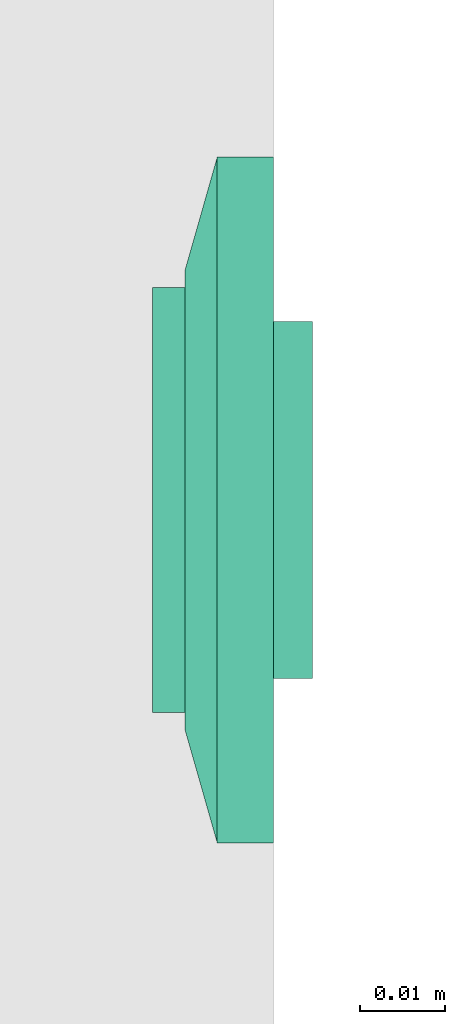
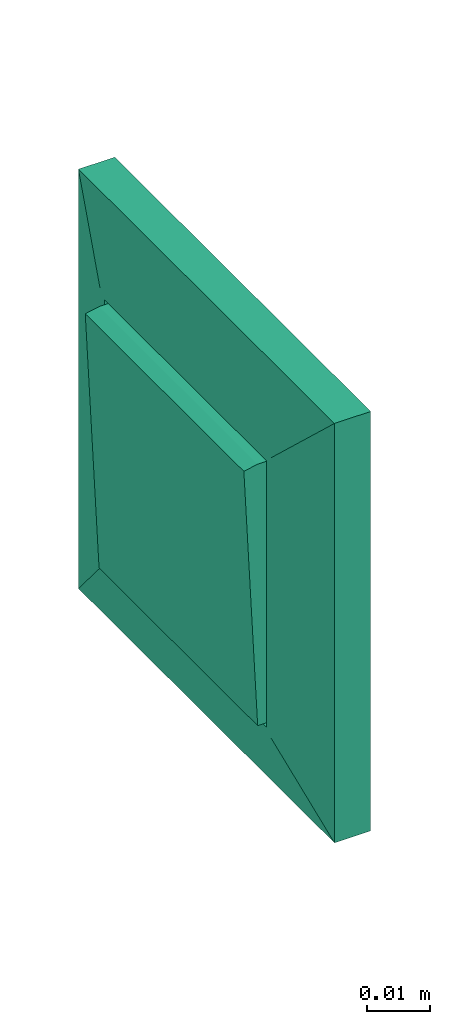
# One storey, part 108 of 153: 1 flow terminal.
"""IFC2X3 building model written with IfcOpenShell, lengths in metres."""

from ifc_helpers import new_model, entity, si_unit, converted_unit, derived_unit, direction, frame, origin, place, context, subcontext, project, spatial, faceted_brep, source, transform, mapped, type_object, type_shapes, element, save


model = new_model("IFC2X3")

# Units and contexts
model_context = context("Model", 3, precision=1e-05, world=origin(), true_north=direction((6.12303176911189e-17, 1.0)))
body_context = subcontext(model_context, "Body", "Model", "MODEL_VIEW")
ifc_project = project(units=[si_unit("LENGTHUNIT", "METRE"), si_unit("AREAUNIT", "SQUARE_METRE"), si_unit("VOLUMEUNIT", "CUBIC_METRE"), converted_unit("PLANEANGLEUNIT", "DEGREE", entity("IfcRatioMeasure", 0.0174532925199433), si_unit("PLANEANGLEUNIT", "RADIAN"), dimensions=[0, 0, 0, 0, 0, 0, 0]), si_unit("MASSUNIT", "GRAM", prefix="KILO"), derived_unit("MASSDENSITYUNIT", [(si_unit("MASSUNIT", "GRAM", prefix="KILO"), 1), (si_unit("LENGTHUNIT", "METRE"), -3)]), si_unit("TIMEUNIT", "SECOND"), si_unit("FREQUENCYUNIT", "HERTZ"), si_unit("THERMODYNAMICTEMPERATUREUNIT", "DEGREE_CELSIUS"), derived_unit("THERMALTRANSMITTANCEUNIT", [(si_unit("MASSUNIT", "GRAM", prefix="KILO"), 1), (si_unit("THERMODYNAMICTEMPERATUREUNIT", "KELVIN"), -1), (si_unit("TIMEUNIT", "SECOND"), -3)]), derived_unit("VOLUMETRICFLOWRATEUNIT", [(si_unit("LENGTHUNIT", "METRE"), 3), (si_unit("TIMEUNIT", "SECOND"), -1)]), si_unit("ELECTRICCURRENTUNIT", "AMPERE"), si_unit("ELECTRICVOLTAGEUNIT", "VOLT"), si_unit("POWERUNIT", "WATT"), si_unit("FORCEUNIT", "NEWTON"), si_unit("ILLUMINANCEUNIT", "LUX"), si_unit("LUMINOUSFLUXUNIT", "LUMEN"), si_unit("LUMINOUSINTENSITYUNIT", "CANDELA"), derived_unit("USERDEFINED", [(si_unit("MASSUNIT", "GRAM", prefix="KILO"), -1), (si_unit("LENGTHUNIT", "METRE"), -2), (si_unit("TIMEUNIT", "SECOND"), 3), (si_unit("LUMINOUSFLUXUNIT", "LUMEN"), 1)]), derived_unit("LINEARVELOCITYUNIT", [(si_unit("LENGTHUNIT", "METRE"), 1), (si_unit("TIMEUNIT", "SECOND"), -1)]), si_unit("PRESSUREUNIT", "PASCAL"), derived_unit("USERDEFINED", [(si_unit("LENGTHUNIT", "METRE"), -2), (si_unit("MASSUNIT", "GRAM", prefix="KILO"), 1), (si_unit("TIMEUNIT", "SECOND"), -2)])], contexts=[model_context])

# Site, building, storey
site_placement = place(None, origin())
site = spatial("IfcSite", under=ifc_project, at=site_placement, Name="Default", CompositionType="ELEMENT")
building_placement = place(site_placement, origin())
building = spatial("IfcBuilding", under=site, at=building_placement, CompositionType="ELEMENT")
storey_placement = place(building_placement, frame((0.0, 0.0, -4.62)))
storey = spatial("IfcBuildingStorey", under=building, at=storey_placement, Name="S02", CompositionType="ELEMENT", Elevation=-4.62)

# Flow terminal
light_fixture_type = type_object("IfcLightFixtureType", Name="BP IP21", PredefinedType="NOTDEFINED")
shared_shape = source(origin(), body_context, "Body", "Brep", [
    faceted_brep([(0.0, 0.0209999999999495, -0.00460000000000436), (0.00543519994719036, 0.02028444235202, -0.00460000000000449), (0.0105000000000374, 0.0181865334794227, -0.00460000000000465), (0.0148492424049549, 0.014849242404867, -0.00460000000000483), (0.0181865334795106, 0.0104999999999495, -0.00460000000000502), (0.0202844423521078, 0.00543519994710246, -0.00460000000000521), (0.0210000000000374, 0.0, -0.00460000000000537), (0.0202844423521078, -0.00543519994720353, -0.00460000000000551), (0.0181865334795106, -0.0105000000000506, -0.0046000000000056), (0.0148492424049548, -0.0148492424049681, -0.00460000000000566), (0.0105000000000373, -0.0181865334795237, -0.00460000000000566), (0.00543519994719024, -0.0202844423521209, -0.00460000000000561), (0.0, -0.0210000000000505, -0.00460000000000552), (-0.00543519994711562, -0.0202844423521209, -0.00460000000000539), (-0.0104999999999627, -0.0181865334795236, -0.00460000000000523), (-0.0148492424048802, -0.0148492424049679, -0.00460000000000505), (-0.0181865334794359, -0.0105000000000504, -0.00460000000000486), (-0.0202844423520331, -0.00543519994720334, -0.00460000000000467), (-0.0209999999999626, 0.0, -0.00460000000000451), (-0.020284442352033, 0.00543519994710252, -0.00460000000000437), (-0.0181865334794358, 0.0104999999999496, -0.00460000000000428), (-0.0148492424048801, 0.0148492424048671, -0.00460000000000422), (-0.0104999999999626, 0.0181865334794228, -0.00460000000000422), (-0.00543519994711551, 0.02028444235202, -0.00460000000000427), (-0.020284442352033, -0.00543519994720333, 0.0), (-0.0209999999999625, 0.0, 0.0), (-0.0181865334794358, -0.0105000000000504, 0.0), (-0.0104999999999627, -0.0181865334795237, 0.0), (-0.0148492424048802, -0.0148492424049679, 0.0), (-0.00543519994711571, -0.020284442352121, 0.0), (0.0, -0.0210000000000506, 0.0), (0.00543519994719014, -0.0202844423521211, 0.0), (0.0105000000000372, -0.018186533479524, 0.0), (0.0181865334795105, -0.0105000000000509, 0.0), (0.0148492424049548, -0.0148492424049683, 0.0), (0.0202844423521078, -0.00543519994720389, 0.0), (0.0210000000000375, 0.0, 0.0), (0.0202844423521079, 0.00543519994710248, 0.0), (0.0181865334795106, 0.0104999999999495, 0.0), (0.0105000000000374, 0.0181865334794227, 0.0), (0.0148492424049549, 0.014849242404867, 0.0), (0.00543519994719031, 0.0202844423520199, 0.0), (0.0, 0.0209999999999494, 0.0), (-0.00543519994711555, 0.0202844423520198, 0.0), (-0.0104999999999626, 0.0181865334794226, 0.0), (-0.0181865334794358, 0.0104999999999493, 0.0), (-0.0148492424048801, 0.0148492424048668, 0.0), (-0.020284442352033, 0.00543519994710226, 0.0)], [[[0, 1, 2, 3, 4, 5, 6, 7, 8, 9, 10, 11, 12, 13, 14, 15, 16, 17, 18, 19, 20, 21, 22, 23]], [[17, 24, 25, 18]], [[16, 26, 24, 17]], [[27, 28, 15, 14]], [[16, 15, 28, 26]], [[29, 27, 14, 13]], [[30, 29, 13, 12]], [[11, 31, 30, 12]], [[10, 32, 31, 11]], [[33, 34, 9, 8]], [[10, 9, 34, 32]], [[35, 33, 8, 7]], [[36, 35, 7, 6]], [[5, 37, 36, 6]], [[4, 38, 37, 5]], [[39, 40, 3, 2]], [[4, 3, 40, 38]], [[41, 39, 2, 1]], [[42, 41, 1, 0]], [[23, 43, 42, 0]], [[22, 44, 43, 23]], [[45, 46, 21, 20]], [[22, 21, 46, 44]], [[47, 45, 20, 19]], [[25, 47, 19, 18]], [[25, 24, 26, 28, 27, 29, 30, 31, 32, 34, 33, 35, 36, 37, 38, 40, 39, 41, 42, 43, 44, 46, 45, 47]]]),
    faceted_brep([(0.0270000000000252, 0.026999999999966, 0.0103999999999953), (-0.0269999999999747, 0.026999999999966, 0.0103999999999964), (-0.0269999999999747, -0.0270000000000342, 0.0103999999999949), (0.0270000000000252, -0.0270000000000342, 0.0103999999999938), (-0.0254999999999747, 0.0258096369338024, 0.0103999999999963), (0.0255000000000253, 0.0258096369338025, 0.0103999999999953), (0.0255000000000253, -0.0255000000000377, 0.0103999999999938), (-0.0254999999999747, -0.0255000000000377, 0.0103999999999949), (0.0270000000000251, 0.0269999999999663, 0.00199999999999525), (0.0270000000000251, -0.0270000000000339, 0.00199999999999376), (-0.0269999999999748, -0.0270000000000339, 0.00199999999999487), (-0.0269999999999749, 0.0269999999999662, 0.00199999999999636), (0.0255000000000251, 0.0258096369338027, 0.00199999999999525), (-0.0254999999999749, 0.0258096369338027, 0.0019999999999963), (-0.0254999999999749, -0.0255000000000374, 0.00199999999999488), (0.0255000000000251, -0.0255000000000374, 0.00199999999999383)], [[[0, 1, 2, 3], [4, 5, 6, 7]], [[8, 9, 10, 11], [12, 13, 14, 15]], [[1, 0, 8, 11]], [[2, 1, 11, 10]], [[3, 2, 10, 9]], [[0, 3, 9, 8]], [[12, 5, 4, 13]], [[13, 4, 7, 14]], [[14, 7, 6, 15]], [[5, 12, 15, 6]]]),
    faceted_brep([(0.0250000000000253, 0.0253096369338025, 0.00659999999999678), (0.0250000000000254, 0.0253096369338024, 0.0117095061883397), (0.0250000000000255, -0.0245000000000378, 0.0142232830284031), (0.0250000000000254, -0.0250000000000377, 0.0117095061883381), (0.0250000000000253, -0.0250000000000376, 0.00659999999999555), (-0.0249999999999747, 0.0253096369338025, 0.00659999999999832), (-0.0249999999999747, -0.0250000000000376, 0.00659999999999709), (-0.0249999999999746, -0.0250000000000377, 0.0117095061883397), (-0.0249999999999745, -0.0245000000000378, 0.0142232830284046), (-0.0249999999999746, 0.0253096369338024, 0.0117095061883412)], [[[0, 1, 2, 3, 4]], [[5, 6, 7, 8, 9]], [[1, 0, 5, 9]], [[2, 1, 9, 8]], [[3, 2, 8, 7]], [[4, 3, 7, 6]], [[0, 4, 6, 5]]]),
    faceted_brep([(0.027000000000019, 0.0269999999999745, 0.00659999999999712), (-0.0269999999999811, 0.0269999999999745, 0.00659999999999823), (-0.026999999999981, -0.0270000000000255, 0.00659999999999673), (0.027000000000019, -0.0270000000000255, 0.00659999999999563), (0.040350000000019, 0.0403499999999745, 0.00659999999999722), (0.040350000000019, -0.0403500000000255, 0.00659999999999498), (-0.0403499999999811, -0.0403500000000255, 0.00659999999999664), (-0.0403499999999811, 0.0403499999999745, 0.00659999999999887), (-0.026999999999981, 0.0269999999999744, 0.0103999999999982), (0.027000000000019, 0.0269999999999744, 0.0103999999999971), (-0.026999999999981, -0.0270000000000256, 0.0103999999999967), (0.027000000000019, -0.0270000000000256, 0.0103999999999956)], [[[0, 1, 2, 3], [4, 5, 6, 7]], [[4, 7, 8, 9]], [[7, 6, 10, 8]], [[6, 5, 11, 10]], [[5, 4, 9, 11]], [[0, 9, 8, 1]], [[1, 8, 10, 2]], [[2, 10, 11, 3]], [[9, 0, 3, 11]]], outer=[[False, True], [True], [True], [True], [True], [True], [True], [True], [True]]),
    faceted_brep([(0.040350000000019, 0.0403499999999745, 0.00659999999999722), (-0.0403499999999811, 0.0403499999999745, 0.00659999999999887), (-0.0403499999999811, -0.0403500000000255, 0.00659999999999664), (0.040350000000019, -0.0403500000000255, 0.00659999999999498), (-0.0269999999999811, 0.0269999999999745, 0.00659999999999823), (0.0270000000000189, 0.0269999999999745, 0.00659999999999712), (0.0270000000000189, -0.0270000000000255, 0.00659999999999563), (-0.0269999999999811, -0.0270000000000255, 0.00659999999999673), (0.0403500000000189, 0.0403499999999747, 0.0), (0.0403500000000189, -0.0403500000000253, 0.0), (-0.0403499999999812, -0.0403500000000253, 0.0), (-0.0403499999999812, 0.0403499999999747, 0.0), (0.0270000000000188, 0.0269999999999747, 0.0), (-0.0269999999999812, 0.0269999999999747, 0.0), (-0.0269999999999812, -0.0270000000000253, 0.0), (0.0270000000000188, -0.0270000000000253, 0.0)], [[[0, 1, 2, 3], [4, 5, 6, 7]], [[8, 9, 10, 11], [12, 13, 14, 15]], [[1, 0, 8, 11]], [[2, 1, 11, 10]], [[3, 2, 10, 9]], [[0, 3, 9, 8]], [[12, 5, 4, 13]], [[13, 4, 7, 14]], [[14, 7, 6, 15]], [[5, 12, 15, 6]]]),
])
type_shapes(light_fixture_type, [shared_shape])
flow_terminal_placement = place(building_placement, frame((53.3897436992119, -187.784679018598, -3.57000000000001), z_axis=(-1.0, 0.0, 0.0), x_axis=(0.0, 1.0, 0.0)))
element("IfcFlowTerminal", 1, at=flow_terminal_placement, inside=storey, type_object=light_fixture_type, Name="INT_Cmd BA:BP IP21", ObjectType="INT_Cmd BA:BP IP21", context=body_context, shape_type="MappedRepresentation", body=[
    mapped(shared_shape, transform((0.0, 0.0, 0.0), scale=1.0)),
])

save(model, "model.ifc")
